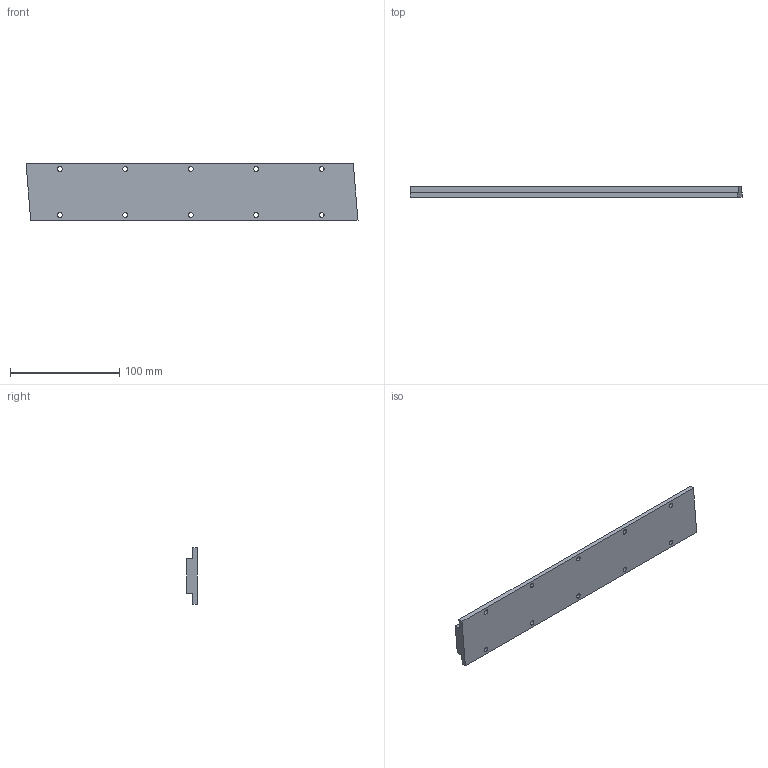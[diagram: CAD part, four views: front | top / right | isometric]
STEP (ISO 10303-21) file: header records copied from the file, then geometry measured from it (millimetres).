
FILE_DESCRIPTION (( 'STEP AP214' ), '1' );
FILE_NAME ('MK1-300隅赽.STEP', '2025-09-05T08:54:15', ( '' ), ( '' ), 'SwSTEP 2.0', 'SolidWorks 2016', '' );
FILE_SCHEMA (( 'AUTOMOTIVE_DESIGN' ));
Length unit declared in the file: millimetre
Products named in the file (1): MK1-300隅赽
Bounding box: 304.36 x 9.6 x 52 mm (x, y, z)
Volume: 114845.6 mm3; surface area: 37994.4 mm2
Topology: 1 solids, 1 shells, 60 faces, 168 edges, 112 vertices
Faces by surface type: plane 28, cylinder 20, bspline 12
Entity records: 2686 total; most frequent: CARTESIAN_POINT 1105, ORIENTED_EDGE 336, DIRECTION 282, EDGE_CURVE 168, VERTEX_POINT 112, VECTOR 104, LINE 104, AXIS2_PLACEMENT_3D 89
